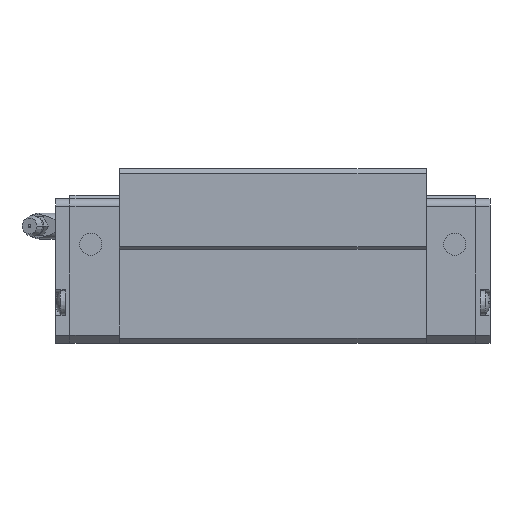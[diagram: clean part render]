
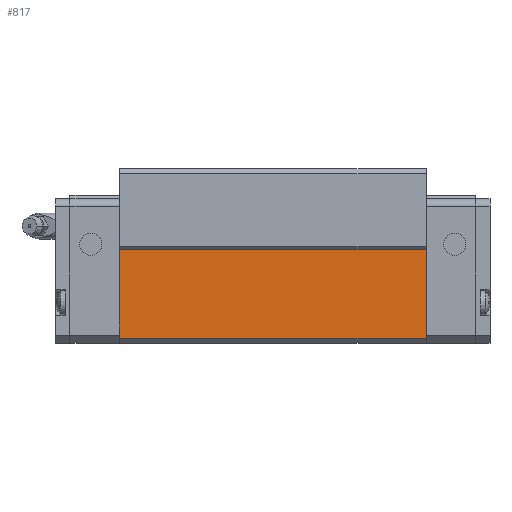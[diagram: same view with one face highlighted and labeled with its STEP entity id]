
A CAD part, front view. The second image highlights one B-rep face of the part: STEP entity #817.
In plain terms, the highlighted planar face has unit normal (0, -1, 0).
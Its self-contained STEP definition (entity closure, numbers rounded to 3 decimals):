
#756=CARTESIAN_POINT('POINT46',(142.2,-49.,
   2.));
#757=VERTEX_POINT('VERTEX46',#756);
#764=CARTESIAN_POINT('POINT47',(24.5,-49.,
   2.));
#765=VERTEX_POINT('VERTEX47',#764);
#766=CARTESIAN_POINT('POS77',(24.5,-49.,
   2.));
#767=DIRECTION('DIR116',(1.,0.,0.));
#768=VECTOR('VEC38',#767,1.);
#769=LINE('STRAIGHT38',#766,#768);
#770=EDGE_CURVE('EDGE76',#765,#757,#769,.T.);
#787=CARTESIAN_POINT('POINT48',(142.2,-49.,
   36.));
#788=VERTEX_POINT('VERTEX48',#787);
#789=CARTESIAN_POINT('POS80',(142.2,-49.,
   2.));
#790=DIRECTION('DIR120',(0.,0.,1.));
#791=VECTOR('VEC40',#790,1.);
#792=LINE('STRAIGHT40',#789,#791);
#793=EDGE_CURVE('EDGE78',#757,#788,#792,.T.);
#794=ORIENTED_EDGE('COEDGE143',*,*,#793,.T.);
#795=CARTESIAN_POINT('POINT49',(24.5,-49.,
   36.));
#796=VERTEX_POINT('VERTEX49',#795);
#797=CARTESIAN_POINT('POS81',(24.5,-49.,
   36.));
#798=DIRECTION('DIR121',(1.,0.,0.));
#799=VECTOR('VEC41',#798,1.);
#800=LINE('STRAIGHT41',#797,#799);
#801=EDGE_CURVE('EDGE79',#796,#788,#800,.T.);
#802=ORIENTED_EDGE('COEDGE144',*,*,#801,.F.);
#803=CARTESIAN_POINT('POS82',(24.5,-49.,
   2.));
#804=DIRECTION('DIR122',(0.,0.,1.));
#805=VECTOR('VEC42',#804,1.);
#806=LINE('STRAIGHT42',#803,#805);
#807=EDGE_CURVE('EDGE80',#765,#796,#806,.T.);
#808=ORIENTED_EDGE('COEDGE145',*,*,#807,.F.);
#809=ORIENTED_EDGE('COEDGE146',*,*,#770,.T.);
#810=EDGE_LOOP('NONE',(#794,#802,#808,#809));
#811=FACE_BOUND('LOOP1',#810,.T.);
#812=CARTESIAN_POINT('POS83',(24.5,-49.,
   2.));
#813=DIRECTION('DIR123',(0.,-1.,0.));
#814=DIRECTION('DIR124',(1.,0.,0.));
#815=AXIS2_PLACEMENT_3D('AXIS41',#812,#813,#814);
#816=PLANE('PLANE6',#815);
#817=ADVANCED_FACE('FACE38',(#811),#816,.T.);
